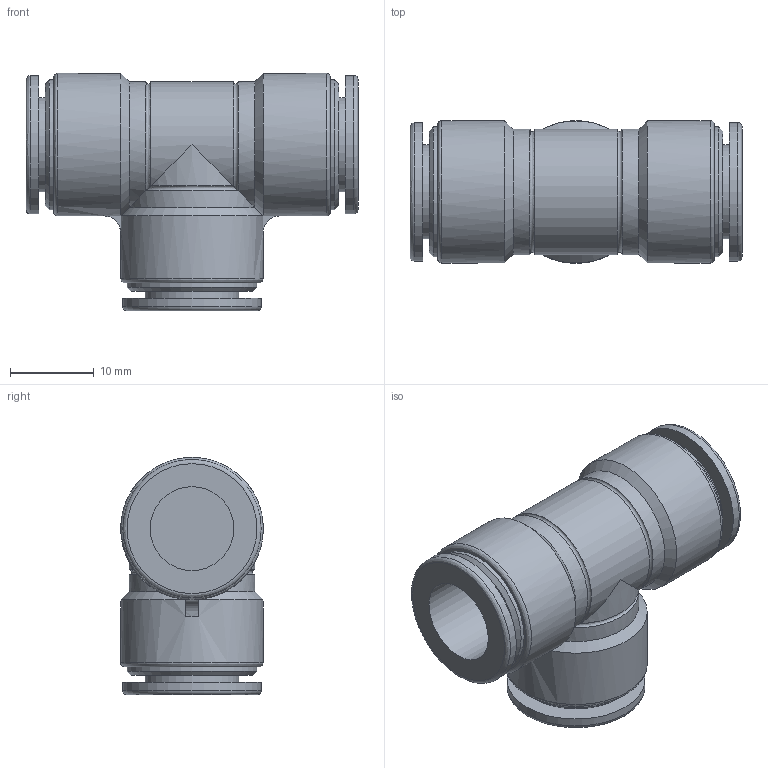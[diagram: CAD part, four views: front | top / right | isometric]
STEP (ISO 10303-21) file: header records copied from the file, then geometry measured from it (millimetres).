
FILE_DESCRIPTION((''),'2;1');
FILE_NAME('E:\2012年度板ﾃﾞｰﾀ\CHIYODA 3D-CAD DATA (Inventor 11)\TOUCH CONNECTOR FIVE (Inventor 11)\[17] UNION TEE\[04] FR10-00UT FR10-00UTW.stp','2012-03-21T16:23:24',('kazuhiro.t'),(''),'Autodesk Inventor 11','Autodesk Inventor 11','');
FILE_SCHEMA(('AUTOMOTIVE_DESIGN { 1 0 10303 214 1 1 1 1 }'));
Length unit declared in the file: millimetre
Products named in the file (1): [04] FR10-00UT FR10-00UTW
Bounding box: 39.6 x 17 x 28.3 mm (x, y, z)
Volume: 7181.8 mm3; surface area: 5229.6 mm2
Topology: 1 solids, 1 shells, 68 faces, 145 edges, 91 vertices
Faces by surface type: bspline 36, plane 14, cylinder 11, torus 4, cone 3
Full cylindrical faces by diameter (mm): 10 x1, 11.2 x2, 15.5 x2, 16.5 x2, 17 x1
Entity records: 2320 total; most frequent: CARTESIAN_POINT 1031, DIRECTION 242, ORIENTED_EDGE 240, EDGE_CURVE 120, AXIS2_PLACEMENT_3D 105, EDGE_LOOP 104, VERTEX_POINT 90, FACE_OUTER_BOUND 68
